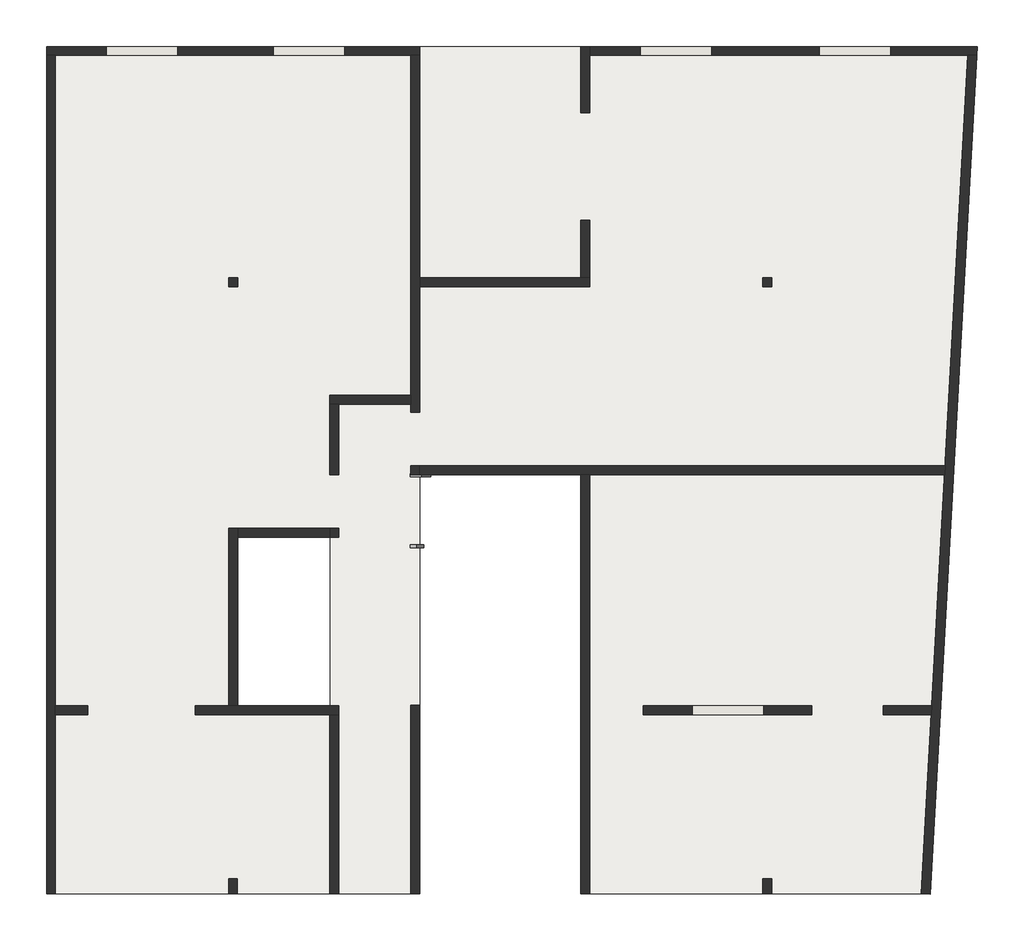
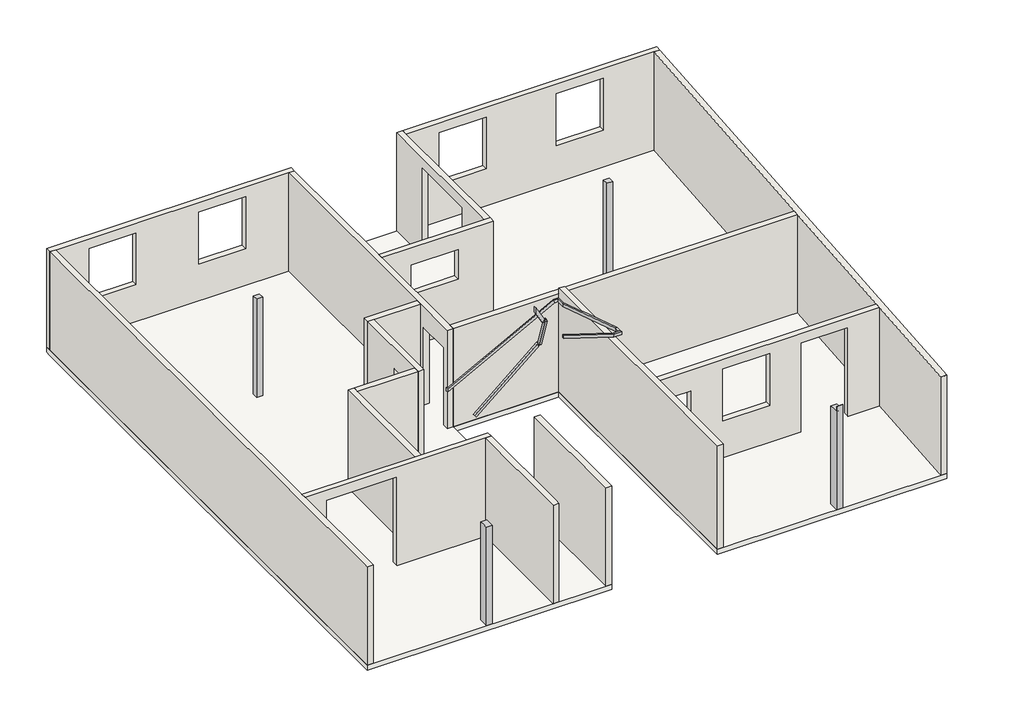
# One storey, incomplete: 17 walls, 4 columns, 2 railings, 1 slab.
"""IFC4 building model written with IfcOpenShell, lengths in millimetres."""

from ifc_helpers import new_model, si_unit, frame, origin, place, context, project, spatial, polyline, outline, extrude, faceted_brep, transform, mapped, element, save
from components import railing_900_mm_3181bc36, railing_900_mm_31de1811

model = new_model("IFC4")

# Units and contexts
model_context = context("Model", 3, world=origin())
ifc_project = project(units=[si_unit("LENGTHUNIT", "METRE", prefix="MILLI")], contexts=[model_context])

# Site, building, storey
site = spatial("IfcSite", under=ifc_project)
building = spatial("IfcBuilding", under=site)
storey = spatial("IfcBuildingStorey", under=building, Name="2ème niveau", Elevation=-30.0)

# Columns
placement = place(None, origin())
element("IfcColumn", 1, ObjectType="Béton - Rectangulaire - Poteau : 15 x 15", at=placement, inside=storey, context=model_context, shape_type="SweptSolid", body=[
    extrude(outline(polyline([(4870.5726427, 2391.7111972), (4870.5726427, 2241.7111972), (4720.5726427, 2241.7111972), (4720.5726427, 2391.7111972), (4870.5726427, 2391.7111972)])), frame((0.0, 0.0, -30.0), z_axis=(0.0, 0.0, 1.0), x_axis=(1.0, 0.0, 0.0)), (0.0, 0.0, 1.0), 2660.0),
])
element("IfcColumn", 2, ObjectType="Béton - Rectangulaire - Poteau : 15 x 15", at=placement, inside=storey, context=model_context, shape_type="SweptSolid", body=[
    extrude(outline(polyline([(-4080.0228675, 2391.7111972), (-4080.0228675, 2241.7111972), (-4230.0228675, 2241.7111972), (-4230.0228675, 2391.7111972), (-4080.0228675, 2391.7111972)])), frame((0.0, 0.0, -30.0), z_axis=(0.0, 0.0, 1.0), x_axis=(1.0, 0.0, 0.0)), (0.0, 0.0, 1.0), 2660.0),
])
element("IfcColumn", 3, ObjectType="Béton - Rectangulaire - Poteau : 15 x 25", at=placement, inside=storey, context=model_context, shape_type="Brep", body=[
    faceted_brep([(-4080.7072273, -7682.248718, -30.0), (-4080.7072273, -7932.248718, -30.0), (-4230.7072273, -7932.248718, -30.0), (-4230.7072273, -7682.248718, -30.0), (-4230.7072273, -7682.248718, 2630.0), (-4080.7072273, -7682.248718, 2630.0), (-4230.7072273, -7932.248718, 2420.0), (-4230.7072273, -7932.248718, 2630.0), (-4230.7072273, -7783.2888028, 2630.0), (-4080.7072273, -7932.248718, 2420.0), (-4080.7072273, -7932.248718, 2630.0), (-4080.7072273, -7783.2888028, 2630.0)], [[[0, 1, 2, 3]], [[0, 3, 4, 5]], [[3, 2, 6, 7, 8, 4]], [[2, 1, 9, 10, 7, 6]], [[1, 0, 5, 11, 10, 9]], [[5, 4, 8, 7, 10, 11]]]),
])
element("IfcColumn", 4, ObjectType="Béton - Rectangulaire - Poteau : 15 x 25", at=placement, inside=storey, context=model_context, shape_type="Brep", body=[
    faceted_brep([(4720.5726427, -7932.4917142, 2770.0), (4870.5726427, -7932.4917142, 2770.0), (4870.5726427, -7931.4125381, 2770.0), (4720.5726427, -7931.4125381, 2770.0), (4870.5726427, -7682.4917142, -30.0), (4870.5726427, -7932.4917142, -30.0), (4720.5726427, -7932.4917142, -30.0), (4720.5726427, -7682.4917142, -30.0), (4720.5726427, -7682.4917142, 2630.0), (4870.5726427, -7682.4917142, 2630.0), (4720.5726427, -7932.4917142, 2420.0), (4720.5726427, -7931.4125381, 2630.0), (4720.5726427, -7783.2888028, 2630.0), (4870.5726427, -7932.4917142, 2420.0), (4870.5726427, -7783.2888028, 2630.0), (4870.5726427, -7931.4125381, 2630.0)], [[[0, 1, 2, 3]], [[4, 5, 6, 7]], [[4, 7, 8, 9]], [[7, 6, 10, 0, 3, 11, 12, 8]], [[1, 0, 10, 6, 5, 13]], [[5, 4, 9, 14, 15, 2, 1, 13]], [[11, 15, 14, 9, 8, 12]], [[15, 11, 3, 2]]]),
])

# Railings
railing_900_mm_shape = railing_900_mm_3181bc36(model_context)
element("IfcRailing", 5, ObjectType="900 mm", at=placement, inside=storey, context=model_context, shape_type="MappedRepresentation", body=[
    mapped(railing_900_mm_shape, transform((0.0, 0.0, 0.0), x_axis=(1.0, 0.0, 0.0), y_axis=(0.0, 1.0, 0.0), z_axis=(0.0, 0.0, 1.0))),
])
railing_900_mm_2_shape = railing_900_mm_31de1811(model_context)
element("IfcRailing", 6, ObjectType="900 mm", at=placement, inside=storey, context=model_context, shape_type="MappedRepresentation", body=[
    mapped(railing_900_mm_2_shape, transform((0.0, 0.0, 0.0), x_axis=(1.0, 0.0, 0.0), y_axis=(0.0, 1.0, 0.0), z_axis=(0.0, 0.0, 1.0))),
])

# Slab
element("IfcSlab", 7, ObjectType="Générique  140 mm", at=placement, inside=storey, context=model_context, shape_type="Brep", body=[
    faceted_brep([(8319.9767141, 6266.7111972, -170.0), (7539.7341234, -7783.2888028, -170.0), (7531.4041314, -7933.2888028, -170.0), (1819.9771325, -7933.2888028, -170.0), (1669.9771325, -7933.2888028, -170.0), (1669.9771325, -908.2888028, -170.0), (-1030.0228675, -908.2888028, -170.0), (-1030.0228675, -7933.2888028, -170.0), (-7130.0228675, -7933.2888028, -170.0), (-7280.0228675, -7933.2888028, -170.0), (-7280.0228675, 6116.7111972, -170.0), (-7280.0228675, 6266.7111972, -170.0), (-3955.0228675, 6266.7111972, -170.0), (-1280.0228675, 6266.7111972, -170.0), (-1030.0228675, 6266.7111972, -170.0), (1669.9771325, 6266.7111972, -170.0), (1919.9771325, 6266.7111972, -170.0), (4595.5726427, 6266.7111972, -170.0), (8169.7455963, 6266.7111972, -170.0), (-2530.0228675, -1958.2888028, -170.0), (-4080.0228675, -1958.2888028, -170.0), (-4080.0228675, -4783.2888028, -170.0), (-2530.0228675, -4783.2888028, -170.0), (8319.9767141, 6266.7111972, -30.0), (1819.9771325, 6266.7111972, -30.0), (-7280.0228675, 6266.7111972, -30.0), (-7280.0228675, 6116.7111972, -30.0), (-7280.0228675, -7933.2888028, -30.0), (-7130.0228675, -7933.2888028, -30.0), (-1030.0228675, -7933.2888028, -30.0), (-1030.0228675, -908.2888028, -30.0), (1669.9771325, -908.2888028, -30.0), (1669.9771325, -7933.2888028, -30.0), (7531.4041314, -7933.2888028, -30.0), (8311.6467221, 6116.7111972, -30.0), (-2530.0228675, -1958.2888028, -30.0), (-2530.0228675, -4783.2888028, -30.0), (-4080.0228675, -4783.2888028, -30.0), (-4080.0228675, -1958.2888028, -30.0)], [[[0, 1, 2, 3, 4, 5, 6, 7, 8, 9, 10, 11, 12, 13, 14, 15, 16, 17, 18], [19, 20, 21, 22]], [[23, 24, 25, 26, 27, 28, 29, 30, 31, 32, 33, 34], [35, 36, 37, 38]], [[2, 1, 0, 23, 34, 33]], [[4, 3, 2, 33, 32]], [[5, 4, 32, 31]], [[6, 5, 31, 30]], [[7, 6, 30, 29]], [[9, 8, 7, 29, 28, 27]], [[11, 10, 9, 27, 26, 25]], [[0, 18, 17, 16, 15, 14, 13, 12, 11, 25, 24, 23]], [[20, 19, 35, 38]], [[21, 20, 38, 37]], [[22, 21, 37, 36]], [[19, 22, 36, 35]]]),
])

# Walls
element("IfcWall", 8, ObjectType="Générique - 150 mm", at=placement, inside=storey, context=model_context, shape_type="Brep", body=[
    faceted_brep([(-7280.0228675, 6116.7111972, -30.0), (-7130.0228675, 6116.7111972, -30.0), (-1180.0228675, 6116.7111972, -30.0), (-1030.0228675, 6116.7111972, -30.0), (-1030.0228675, 6116.7111972, 2420.0), (-1030.0228675, 6116.7111972, 2630.0), (-1180.0228675, 6116.7111972, 2630.0), (-7130.0228675, 6116.7111972, 2630.0), (-7280.0228675, 6116.7111972, 2630.0), (-5080.0228675, 6116.7111972, 2370.0), (-5080.0228675, 6116.7111972, 970.0), (-6280.0228675, 6116.7111972, 970.0), (-6280.0228675, 6116.7111972, 2370.0), (-2280.0228675, 6116.7111972, 2370.0), (-2280.0228675, 6116.7111972, 970.0), (-3480.0228675, 6116.7111972, 970.0), (-3480.0228675, 6116.7111972, 2370.0), (-7280.0228675, 6266.7111972, -30.0), (-7280.0228675, 6266.7111972, 2630.0), (-1030.0228675, 6266.7111972, 2630.0), (-1030.0228675, 6266.7111972, 2420.0), (-1030.0228675, 6266.7111972, -30.0), (-5080.0228675, 6266.7111972, 2370.0), (-6280.0228675, 6266.7111972, 2370.0), (-6280.0228675, 6266.7111972, 970.0), (-5080.0228675, 6266.7111972, 970.0), (-2280.0228675, 6266.7111972, 2370.0), (-3480.0228675, 6266.7111972, 2370.0), (-3480.0228675, 6266.7111972, 970.0), (-2280.0228675, 6266.7111972, 970.0)], [[[0, 1, 2, 3, 4, 5, 6, 7, 8], [9, 10, 11, 12], [13, 14, 15, 16]], [[17, 18, 19, 20, 21], [22, 23, 24, 25], [26, 27, 28, 29]], [[3, 2, 1, 0, 17, 21]], [[5, 4, 3, 21, 20, 19]], [[0, 8, 18, 17]], [[10, 9, 22, 25]], [[11, 10, 25, 24]], [[12, 11, 24, 23]], [[9, 12, 23, 22]], [[14, 13, 26, 29]], [[15, 14, 29, 28]], [[16, 15, 28, 27]], [[13, 16, 27, 26]], [[8, 7, 6, 5, 19, 18]]]),
])
element("IfcWall", 9, ObjectType="Générique - 150 mm", at=placement, inside=storey, context=model_context, shape_type="Brep", body=[
    faceted_brep([(-1180.0228675, -758.2888028, 2070.0), (-1180.0228675, -758.2888028, -30.0), (-1180.0228675, -908.2888028, -30.0), (-1180.0228675, -908.2888028, 2630.0), (-1180.0228675, 271.7111972, 2630.0), (-1180.0228675, 421.7111972, 2630.0), (-1180.0228675, 6116.7111972, 2630.0), (-1180.0228675, 6116.7111972, -30.0), (-1180.0228675, 421.7111972, -30.0), (-1180.0228675, 271.7111972, -30.0), (-1180.0228675, 141.7111972, -30.0), (-1180.0228675, 141.7111972, 2070.0), (-1030.0228675, -908.2888028, -30.0), (-1030.0228675, -758.2888028, -30.0), (-1030.0228675, -758.2888028, 2070.0), (-1030.0228675, 141.7111972, 2070.0), (-1030.0228675, 141.7111972, -30.0), (-1030.0228675, 2241.7111972, -30.0), (-1030.0228675, 2391.7111972, -30.0), (-1030.0228675, 6116.7111972, -30.0), (-1030.0228675, 6116.7111972, 2630.0), (-1030.0228675, 2391.7111972, 2630.0), (-1030.0228675, 2241.7111972, 2630.0), (-1030.0228675, -758.2888028, 2630.0), (-1030.0228675, -908.2888028, 2630.0)], [[[0, 1, 2, 3, 4, 5, 6, 7, 8, 9, 10, 11]], [[12, 13, 14, 15, 16, 17, 18, 19, 20, 21, 22, 23, 24]], [[2, 1, 13, 12]], [[10, 9, 8, 7, 19, 18, 17, 16]], [[7, 6, 20, 19]], [[3, 2, 12, 24]], [[16, 15, 11, 10]], [[14, 13, 1, 0]], [[15, 14, 0, 11]], [[6, 5, 4, 3, 24, 23, 22, 21, 20]]]),
])
element("IfcWall", 10, ObjectType="Générique - 150 mm", at=placement, inside=storey, context=model_context, shape_type="Brep", body=[
    faceted_brep([(-1030.0228675, -908.2888028, -30.0), (1669.9771325, -908.2888028, -30.0), (1819.9771325, -908.2888028, -30.0), (7771.2943089, -908.2888028, -30.0), (7771.2943089, -908.2888028, 2630.0), (-1030.0228675, -908.2888028, 2630.0), (-1030.0228675, -758.2888028, -30.0), (-1030.0228675, -758.2888028, 2070.0), (-1030.0228675, -758.2888028, 2630.0), (7779.6243009, -758.2888028, 2630.0), (7779.6243009, -758.2888028, -30.0)], [[[0, 1, 2, 3, 4, 5]], [[6, 7, 8, 9, 10]], [[3, 2, 1, 0, 6, 10]], [[0, 5, 8, 7, 6]], [[4, 3, 10, 9]], [[5, 4, 9, 8]]]),
])
element("IfcWall", 11, ObjectType="Générique - 150 mm", at=placement, inside=storey, context=model_context, shape_type="Brep", body=[
    faceted_brep([(-1030.0228675, 2241.7111972, -30.0), (1819.9771325, 2241.7111972, -30.0), (1819.9771325, 2241.7111972, 2470.0), (1819.9771325, 2241.7111972, 2630.0), (-1030.0228675, 2241.7111972, 2630.0), (919.9771325, 2241.7111972, 2170.0), (919.9771325, 2241.7111972, 1370.0), (-280.0228675, 2241.7111972, 1370.0), (-280.0228675, 2241.7111972, 2170.0), (-1030.0228675, 2391.7111972, -30.0), (-1030.0228675, 2391.7111972, 2630.0), (1669.9771325, 2391.7111972, 2630.0), (1819.9771325, 2391.7111972, 2630.0), (1819.9771325, 2391.7111972, 2470.0), (1819.9771325, 2391.7111972, -30.0), (1669.9771325, 2391.7111972, -30.0), (919.9771325, 2391.7111972, 2170.0), (-280.0228675, 2391.7111972, 2170.0), (-280.0228675, 2391.7111972, 1370.0), (919.9771325, 2391.7111972, 1370.0)], [[[0, 1, 2, 3, 4], [5, 6, 7, 8]], [[9, 10, 11, 12, 13, 14, 15], [16, 17, 18, 19]], [[1, 0, 9, 15, 14]], [[0, 4, 10, 9]], [[3, 2, 1, 14, 13, 12]], [[6, 5, 16, 19]], [[7, 6, 19, 18]], [[8, 7, 18, 17]], [[5, 8, 17, 16]], [[4, 3, 12, 11, 10]]]),
])
element("IfcWall", 12, ObjectType="Générique - 150 mm", at=placement, inside=storey, context=model_context, shape_type="Brep", body=[
    faceted_brep([(1819.9771325, 2391.7111972, -30.0), (1819.9771325, 3356.7111972, -30.0), (1819.9771325, 3356.7111972, 2370.0), (1819.9771325, 5156.7111972, 2370.0), (1819.9771325, 5156.7111972, -30.0), (1819.9771325, 6116.7111972, -30.0), (1819.9771325, 6266.7111972, -30.0), (1819.9771325, 6266.7111972, 2630.0), (1819.9771325, 6116.7111972, 2630.0), (1819.9771325, 2391.7111972, 2630.0), (1669.9771325, 3356.7111972, 2370.0), (1669.9771325, 3356.7111972, -30.0), (1669.9771325, 2391.7111972, -30.0), (1669.9771325, 2391.7111972, 2630.0), (1669.9771325, 6266.7111972, 2630.0), (1669.9771325, 6266.7111972, -30.0), (1669.9771325, 5156.7111972, -30.0), (1669.9771325, 5156.7111972, 2370.0)], [[[0, 1, 2, 3, 4, 5, 6, 7, 8, 9]], [[10, 11, 12, 13, 14, 15, 16, 17]], [[16, 15, 6, 5, 4]], [[12, 11, 1, 0]], [[0, 9, 13, 12]], [[7, 6, 15, 14]], [[4, 3, 17, 16]], [[2, 1, 11, 10]], [[3, 2, 10, 17]], [[9, 8, 7, 14, 13]]]),
])
element("IfcWall", 13, ObjectType="Générique - 150 mm", at=placement, inside=storey, context=model_context, shape_type="Brep", body=[
    faceted_brep([(1819.9771325, 6116.7111972, -30.0), (8161.4156042, 6116.7111972, -30.0), (8311.6467221, 6116.7111972, -30.0), (8311.6467221, 6116.7111972, 2630.0), (8161.4156042, 6116.7111972, 2630.0), (1819.9771325, 6116.7111972, 2630.0), (3869.9771325, 6116.7111972, 2370.0), (3869.9771325, 6116.7111972, 970.0), (2669.9771325, 6116.7111972, 970.0), (2669.9771325, 6116.7111972, 2370.0), (6869.9771325, 6116.7111972, 2370.0), (6869.9771325, 6116.7111972, 970.0), (5669.9771325, 6116.7111972, 970.0), (5669.9771325, 6116.7111972, 2370.0), (1819.9771325, 6266.7111972, -30.0), (1819.9771325, 6266.7111972, 2630.0), (8319.9767141, 6266.7111972, 2630.0), (8319.9767141, 6266.7111972, -30.0), (3869.9771325, 6266.7111972, 2370.0), (2669.9771325, 6266.7111972, 2370.0), (2669.9771325, 6266.7111972, 970.0), (3869.9771325, 6266.7111972, 970.0), (6869.9771325, 6266.7111972, 2370.0), (5669.9771325, 6266.7111972, 2370.0), (5669.9771325, 6266.7111972, 970.0), (6869.9771325, 6266.7111972, 970.0)], [[[0, 1, 2, 3, 4, 5], [6, 7, 8, 9], [10, 11, 12, 13]], [[14, 15, 16, 17], [18, 19, 20, 21], [22, 23, 24, 25]], [[2, 1, 0, 14, 17]], [[0, 5, 15, 14]], [[3, 2, 17, 16]], [[7, 6, 18, 21]], [[8, 7, 21, 20]], [[9, 8, 20, 19]], [[6, 9, 19, 18]], [[11, 10, 22, 25]], [[12, 11, 25, 24]], [[13, 12, 24, 23]], [[10, 13, 23, 22]], [[5, 4, 3, 16, 15]]]),
])
element("IfcWall", 14, ObjectType="Générique - 150 mm", at=placement, inside=storey, context=model_context, shape_type="Brep", body=[
    faceted_brep([(8161.4156042, 6116.7111972, -30.0), (7779.6243009, -758.2888028, -30.0), (7771.2943089, -908.2888028, -30.0), (7556.102847, -4783.2888028, -30.0), (7547.772855, -4933.2888028, -30.0), (7381.5081487, -7927.2539495, -30.0), (7381.5081487, -7927.2539495, 2630.0), (7547.772855, -4933.2888028, 2630.0), (7556.102847, -4783.2888028, 2630.0), (7771.2943089, -908.2888028, 2630.0), (7779.6243009, -758.2888028, 2630.0), (8161.4156042, 6116.7111972, 2630.0), (8311.6467221, 6116.7111972, -30.0), (8311.6467221, 6116.7111972, 2630.0), (7531.5083265, -7931.4125381, 2630.0), (7531.2773864, -7935.5711266, 2630.0), (7531.2773864, -7935.5711266, -30.0), (7531.4041314, -7933.2888028, -30.0), (7456.3927676, -7931.4125381, 2630.0)], [[[0, 1, 2, 3, 4, 5, 6, 7, 8, 9, 10, 11]], [[12, 13, 14, 15, 16, 17]], [[5, 4, 3, 2, 1, 0, 12, 17, 16]], [[6, 5, 16, 15, 18]], [[0, 11, 13, 12]], [[18, 15, 14]], [[11, 10, 9, 8, 7, 6, 18, 14, 13]]]),
])
element("IfcWall", 15, ObjectType="Générique - 150 mm", at=placement, inside=storey, context=model_context, shape_type="Brep", body=[
    faceted_brep([(7556.102847, -4783.2888028, -30.0), (6739.9771325, -4783.2888028, -30.0), (6739.9771325, -4783.2888028, 2370.0), (5539.9771325, -4783.2888028, 2370.0), (5539.9771325, -4783.2888028, -30.0), (2719.9771325, -4783.2888028, -30.0), (2719.9771325, -4783.2888028, 2070.0), (1819.9771325, -4783.2888028, 2070.0), (1819.9771325, -4783.2888028, 2630.0), (7556.102847, -4783.2888028, 2630.0), (3539.9771325, -4783.2888028, 2370.0), (3539.9771325, -4783.2888028, 970.0), (4739.9771325, -4783.2888028, 970.0), (4739.9771325, -4783.2888028, 2370.0), (6739.9771325, -4933.2888028, 2370.0), (6739.9771325, -4933.2888028, -30.0), (7547.772855, -4933.2888028, -30.0), (7547.772855, -4933.2888028, 2630.0), (1819.9771325, -4933.2888028, 2630.0), (1819.9771325, -4933.2888028, 2070.0), (2719.9771325, -4933.2888028, 2070.0), (2719.9771325, -4933.2888028, -30.0), (5539.9771325, -4933.2888028, -30.0), (5539.9771325, -4933.2888028, 2370.0), (3539.9771325, -4933.2888028, 2370.0), (4739.9771325, -4933.2888028, 2370.0), (4739.9771325, -4933.2888028, 970.0), (3539.9771325, -4933.2888028, 970.0)], [[[0, 1, 2, 3, 4, 5, 6, 7, 8, 9], [10, 11, 12, 13]], [[14, 15, 16, 17, 18, 19, 20, 21, 22, 23], [24, 25, 26, 27]], [[22, 21, 5, 4]], [[16, 15, 1, 0]], [[0, 9, 17, 16]], [[20, 6, 5, 21]], [[6, 20, 19, 7]], [[4, 3, 23, 22]], [[2, 1, 15, 14]], [[3, 2, 14, 23]], [[11, 10, 24, 27]], [[12, 11, 27, 26]], [[13, 12, 26, 25]], [[10, 13, 25, 24]], [[9, 8, 18, 17]], [[18, 8, 7, 19]]]),
])
element("IfcWall", 16, ObjectType="Générique - 150 mm", at=placement, inside=storey, context=model_context, shape_type="SweptSolid", body=[
    extrude(outline(polyline([(-1030.0228675, -4773.2888028), (-1030.0228675, -7933.2888028), (-1180.0228675, -7933.2888028), (-1180.0228675, -4773.2888028), (-1030.0228675, -4773.2888028)])), frame((0.0, 0.0, -30.0), z_axis=(0.0, 0.0, 1.0), x_axis=(1.0, 0.0, 0.0)), (0.0, 0.0, 1.0), 2660.0),
])
element("IfcWall", 17, ObjectType="Générique - 150 mm", at=placement, inside=storey, context=model_context, shape_type="Brep", body=[
    faceted_brep([(-4230.0228675, -1808.2888028, -30.0), (-4230.0228675, -4783.2888028, -30.0), (-4230.0228675, -4783.2888028, 2630.0), (-4230.0228675, -1808.2888028, 2630.0), (-4080.0228675, -1808.2888028, -30.0), (-4080.0228675, -1808.2888028, 2630.0), (-4080.0228675, -1958.2888028, 2630.0), (-4080.0228675, -4783.2888028, 2630.0), (-4080.0228675, -4783.2888028, -30.0), (-4080.0228675, -1958.2888028, -30.0)], [[[0, 1, 2, 3]], [[4, 5, 6, 7, 8, 9]], [[1, 0, 4, 9, 8]], [[2, 1, 8, 7]], [[0, 3, 5, 4]], [[3, 2, 7, 6, 5]]]),
])
element("IfcWall", 18, ObjectType="Générique - 150 mm", at=placement, inside=storey, context=model_context, shape_type="Brep", body=[
    faceted_brep([(-4790.0228675, -4933.2888028, 2370.0), (-4790.0228675, -4933.2888028, -30.0), (-2530.0228675, -4933.2888028, -30.0), (-2380.0228675, -4933.2888028, -30.0), (-2380.0228675, -4933.2888028, 2630.0), (-2530.0228675, -4933.2888028, 2630.0), (-7130.0228675, -4933.2888028, 2630.0), (-7130.0228675, -4933.2888028, -30.0), (-6590.0228675, -4933.2888028, -30.0), (-6590.0228675, -4933.2888028, 2370.0), (-2380.0228675, -4783.2888028, -30.0), (-4080.0228675, -4783.2888028, -30.0), (-4230.0228675, -4783.2888028, -30.0), (-4790.0228675, -4783.2888028, -30.0), (-4790.0228675, -4783.2888028, 2370.0), (-6590.0228675, -4783.2888028, 2370.0), (-6590.0228675, -4783.2888028, -30.0), (-7130.0228675, -4783.2888028, -30.0), (-7130.0228675, -4783.2888028, 2630.0), (-4230.0228675, -4783.2888028, 2630.0), (-4080.0228675, -4783.2888028, 2630.0), (-2380.0228675, -4783.2888028, 2630.0)], [[[0, 1, 2, 3, 4, 5, 6, 7, 8, 9]], [[10, 11, 12, 13, 14, 15, 16, 17, 18, 19, 20, 21]], [[8, 7, 17, 16]], [[3, 2, 1, 13, 12, 11, 10]], [[4, 3, 10, 21]], [[7, 6, 18, 17]], [[16, 15, 9, 8]], [[14, 13, 1, 0]], [[15, 14, 0, 9]], [[6, 5, 4, 21, 20, 19, 18]]]),
])
element("IfcWall", 19, ObjectType="Générique - 150 mm", at=placement, inside=storey, context=model_context, shape_type="Brep", body=[
    faceted_brep([(-2530.0228675, -4933.2888028, -30.0), (-2530.0228675, -4938.2888028, -30.0), (-2530.0228675, -7778.2888028, -30.0), (-2530.0228675, -7933.2888028, -30.0), (-2530.0228675, -7933.2888028, 2420.0), (-2530.0228675, -7933.2888028, 2630.0), (-2530.0228675, -7783.2888028, 2630.0), (-2530.0228675, -4933.2888028, 2630.0), (-2380.0228675, -4933.2888028, -30.0), (-2380.0228675, -4933.2888028, 2630.0), (-2380.0228675, -7783.2888028, 2630.0), (-2380.0228675, -7933.2888028, 2630.0), (-2380.0228675, -7933.2888028, 2420.0), (-2380.0228675, -7933.2888028, -30.0), (-2380.0228675, -7778.2888028, -30.0), (-2380.0228675, -4938.2888028, -30.0)], [[[0, 1, 2, 3, 4, 5, 6, 7]], [[8, 9, 10, 11, 12, 13, 14, 15]], [[3, 2, 1, 0, 8, 15, 14, 13]], [[5, 4, 3, 13, 12, 11]], [[0, 7, 9, 8]], [[7, 6, 5, 11, 10, 9]]]),
])
element("IfcWall", 20, ObjectType="Générique - 150 mm", at=placement, inside=storey, context=model_context, shape_type="Brep", body=[
    faceted_brep([(-7130.0228675, -7933.2888028, -30.0), (-7130.0228675, -4933.2888028, -30.0), (-7130.0228675, -4783.2888028, -30.0), (-7130.0228675, 6116.7111972, -30.0), (-7130.0228675, 6116.7111972, 2630.0), (-7130.0228675, -4783.2888028, 2630.0), (-7130.0228675, -4933.2888028, 2630.0), (-7130.0228675, -7933.2888028, 2630.0), (-7280.0228675, -7933.2888028, -30.0), (-7280.0228675, -7933.2888028, 2630.0), (-7280.0228675, 6116.7111972, 2630.0), (-7280.0228675, 6116.7111972, -30.0)], [[[0, 1, 2, 3, 4, 5, 6, 7]], [[8, 9, 10, 11]], [[3, 2, 1, 0, 8, 11]], [[0, 7, 9, 8]], [[4, 3, 11, 10]], [[7, 6, 5, 4, 10, 9]]]),
])
element("IfcWall", 21, ObjectType="Générique - 150 mm", at=placement, inside=storey, context=model_context, shape_type="Brep", body=[
    faceted_brep([(-1180.0228675, 421.7111972, -30.0), (-2530.0228675, 421.7111972, -30.0), (-2530.0228675, 421.7111972, 2630.0), (-1180.0228675, 421.7111972, 2630.0), (-1180.0228675, 271.7111972, -30.0), (-1180.0228675, 271.7111972, 2630.0), (-2380.0228675, 271.7111972, 2630.0), (-2530.0228675, 271.7111972, 2630.0), (-2530.0228675, 271.7111972, -30.0), (-2380.0228675, 271.7111972, -30.0)], [[[0, 1, 2, 3]], [[4, 5, 6, 7, 8, 9]], [[1, 0, 4, 9, 8]], [[0, 3, 5, 4]], [[2, 1, 8, 7]], [[3, 2, 7, 6, 5]]]),
])
element("IfcWall", 22, ObjectType="Générique - 150 mm", at=placement, inside=storey, context=model_context, shape_type="Brep", body=[
    faceted_brep([(-2530.0228675, 271.7111972, 2630.0), (-2530.0228675, 271.7111972, -30.0), (-2530.0228675, -908.2888028, -30.0), (-2530.0228675, -908.2888028, 2070.0), (-2530.0228675, -1808.2888028, 2070.0), (-2530.0228675, -1808.2888028, -30.0), (-2530.0228675, -1958.2888028, -30.0), (-2530.0228675, -1958.2888028, 2630.0), (-2530.0228675, -1808.2888028, 2630.0), (-2380.0228675, 271.7111972, -30.0), (-2380.0228675, 271.7111972, 2630.0), (-2380.0228675, -1958.2888028, 2630.0), (-2380.0228675, -1958.2888028, -30.0), (-2380.0228675, -1808.2888028, -30.0), (-2380.0228675, -1808.2888028, 2070.0), (-2380.0228675, -908.2888028, 2070.0), (-2380.0228675, -908.2888028, -30.0)], [[[0, 1, 2, 3, 4, 5, 6, 7, 8]], [[9, 10, 11, 12, 13, 14, 15, 16]], [[1, 9, 16, 2]], [[12, 6, 5, 13]], [[1, 0, 10, 9]], [[4, 14, 13, 5]], [[15, 3, 2, 16]], [[14, 4, 3, 15]], [[7, 6, 12, 11]], [[0, 8, 7, 11, 10]]]),
])
element("IfcWall", 23, ObjectType="Générique - 150 mm", at=placement, inside=storey, context=model_context, shape_type="Brep", body=[
    faceted_brep([(-2530.0228675, -1808.2888028, -30.0), (-4080.0228675, -1808.2888028, -30.0), (-4080.0228675, -1808.2888028, 2630.0), (-2530.0228675, -1808.2888028, 2630.0), (-2530.0228675, -1808.2888028, 2070.0), (-2530.0228675, -1958.2888028, -30.0), (-2530.0228675, -1958.2888028, 2630.0), (-4080.0228675, -1958.2888028, 2630.0), (-4080.0228675, -1958.2888028, -30.0)], [[[0, 1, 2, 3, 4]], [[5, 6, 7, 8]], [[1, 0, 5, 8]], [[2, 1, 8, 7]], [[0, 4, 3, 6, 5]], [[3, 2, 7, 6]]]),
])
element("IfcWall", 24, ObjectType="Générique - 150 mm", at=placement, inside=storey, context=model_context, shape_type="Brep", body=[
    faceted_brep([(1819.9771325, -7933.2888028, -30.0), (1819.9771325, -908.2888028, -30.0), (1819.9771325, -908.2888028, 2770.0), (1819.9771325, -3883.2888028, 2770.0), (1819.9771325, -4783.2888028, 2770.0), (1819.9771325, -7931.4125381, 2770.0), (1819.9771325, -7933.2888028, 2770.0), (1669.9771325, -7933.2888028, -30.0), (1669.9771325, -7933.2888028, 2770.0), (1669.9771325, -7931.4125381, 2770.0), (1669.9771325, -4783.2888028, 2770.0), (1669.9771325, -3883.2888028, 2770.0), (1669.9771325, -908.2888028, 2770.0), (1669.9771325, -908.2888028, -30.0)], [[[0, 1, 2, 3, 4, 5, 6]], [[7, 8, 9, 10, 11, 12, 13]], [[1, 0, 7, 13]], [[6, 5, 4, 3, 2, 12, 11, 10, 9, 8]], [[0, 6, 8, 7]], [[2, 1, 13, 12]]]),
])

save(model, "model.ifc")
